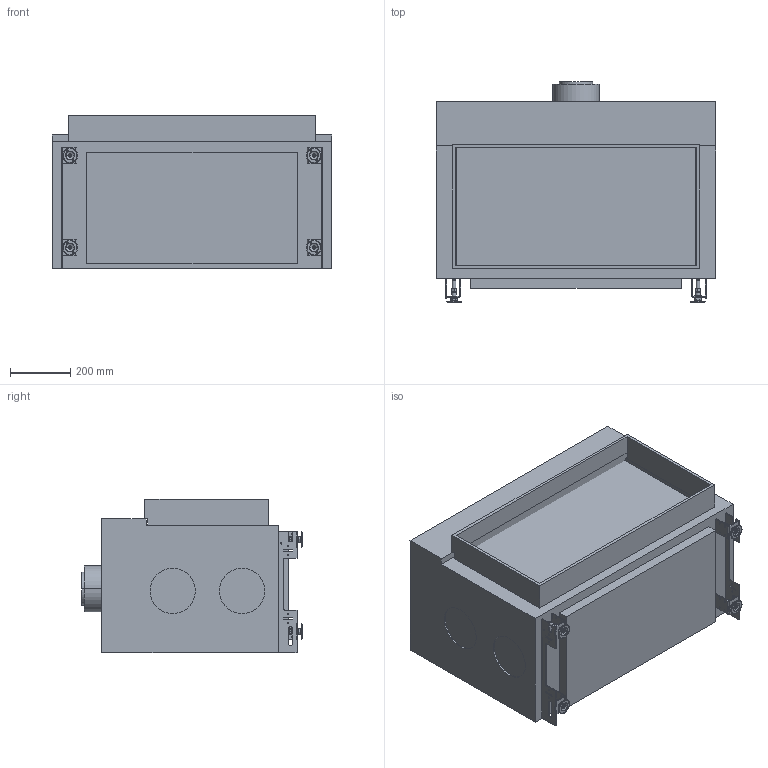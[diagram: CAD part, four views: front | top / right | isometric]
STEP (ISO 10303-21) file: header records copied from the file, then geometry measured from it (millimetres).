
FILE_DESCRIPTION(('Creo Elements/Direct Modeling STEP Export'),'2;1');
FILE_NAME('AVENUE MF 800-40 GHE 1S.stp','2019-05-13T10:18:23',(''),(''),'PTC Creo Elements/Direct Modeling STEP processor for AP214 (Solid Model)','PTC Creo Elements/Direct Modeling 19.0B 21-Mar-2015 (C) Parametric Technology GmbH','');
FILE_SCHEMA(('AUTOMOTIVE_DESIGN { 1 0 10303 214 1 1 1 1 }'));
Length unit declared in the file: millimetre
Products named in the file (13): FinishingFrame; Options; AVN_800-40_1S_Base; Floorsupport_plate_AVN; Adjustable_floorsupport_M12.1; FIXED_PART.1; MOVING_PART.1; TUBTARA_M12.1; Hexagon_nut_M12_Din934; Assembly_Floor_support.2.1; Glass; AVN_800-40_1S; AVENUE_MF_800-40_GHE_1S
Assembly tree (15 placements, depth 5):
  AVENUE_MF_800-40_GHE_1S
    AVN_800-40_1S
      Glass
      Assembly_Floor_support.2.1  x4
        Hexagon_nut_M12_Din934
        TUBTARA_M12.1
          MOVING_PART.1
          FIXED_PART.1
        Adjustable_floorsupport_M12.1
        Floorsupport_plate_AVN
      AVN_800-40_1S_Base
    Options
      FinishingFrame
Bounding box: 927.5 x 730 x 510 mm (x, y, z)
Volume: 115008463.4 mm3; surface area: 4882448.8 mm2
Topology: 23 solids, 23 shells, 817 faces, 2039 edges, 1317 vertices
Faces by surface type: plane 481, cylinder 216, cone 104, torus 8, sphere 8
Entity records: 12429 total; most frequent: CARTESIAN_POINT 3035, ORIENTED_EDGE 1954, DIRECTION 1712, EDGE_CURVE 977, VERTEX_POINT 636, VECTOR 626, LINE 626, AXIS2_PLACEMENT_3D 543
